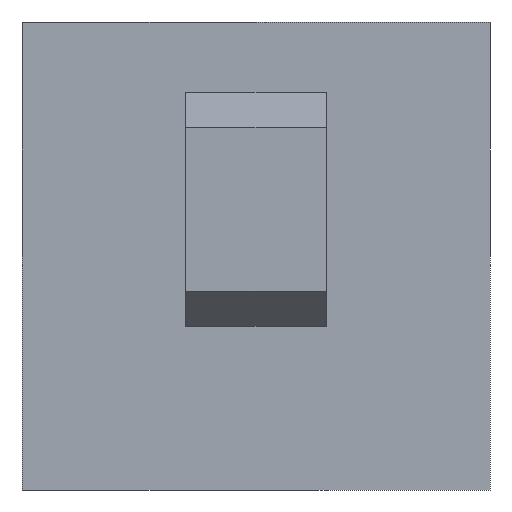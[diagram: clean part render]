
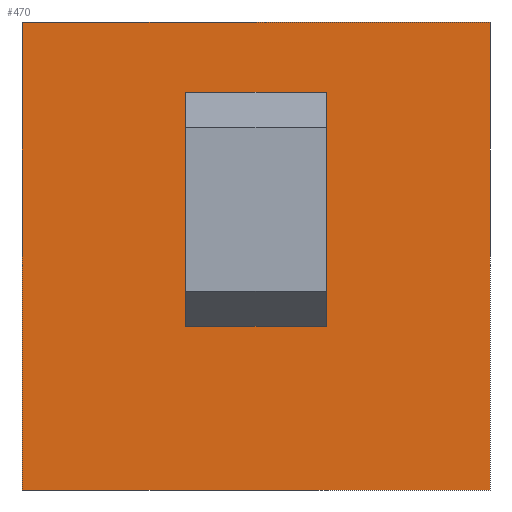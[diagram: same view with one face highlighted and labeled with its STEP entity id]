
A CAD part, front view. The second image highlights one B-rep face of the part: STEP entity #470.
In plain terms, the highlighted planar face has unit normal (0, -1, 0).
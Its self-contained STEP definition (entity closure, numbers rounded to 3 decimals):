
#3 = ORIENTED_EDGE ( 'NONE', *, *, #50, .T. ) ;
#32 = DIRECTION ( 'NONE',  ( 1., 0., 0. ) ) ;
#50 = EDGE_CURVE ( 'NONE', #166, #1022, #87, .T. ) ;
#52 = CARTESIAN_POINT ( 'NONE',  ( -10., -10., 0. ) ) ;
#86 = ORIENTED_EDGE ( 'NONE', *, *, #813, .T. ) ;
#87 = LINE ( 'NONE', #565, #1264 ) ;
#89 = CARTESIAN_POINT ( 'NONE',  ( 3., -10., 6. ) ) ;
#97 = EDGE_LOOP ( 'NONE', ( #679, #481, #1228, #496 ) ) ;
#103 = DIRECTION ( 'NONE',  ( 0., 0., 1. ) ) ;
#128 = VERTEX_POINT ( 'NONE', #939 ) ;
#134 = DIRECTION ( 'NONE',  ( -1., 0., 0. ) ) ;
#137 = VECTOR ( 'NONE', #1367, 1000. ) ;
#166 = VERTEX_POINT ( 'NONE', #1308 ) ;
#170 = EDGE_CURVE ( 'NONE', #1022, #1125, #1445, .T. ) ;
#180 = CARTESIAN_POINT ( 'NONE',  ( 10., -10., 0. ) ) ;
#197 = CARTESIAN_POINT ( 'NONE',  ( 10., -10., 0. ) ) ;
#202 = PLANE ( 'NONE',  #806 ) ;
#246 = ORIENTED_EDGE ( 'NONE', *, *, #170, .T. ) ;
#284 = LINE ( 'NONE', #502, #412 ) ;
#395 = EDGE_CURVE ( 'NONE', #128, #1388, #997, .T. ) ;
#412 = VECTOR ( 'NONE', #134, 1000. ) ;
#415 = VERTEX_POINT ( 'NONE', #545 ) ;
#450 = DIRECTION ( 'NONE',  ( 0., 0., -1. ) ) ;
#455 = VERTEX_POINT ( 'NONE', #1254 ) ;
#470 = ADVANCED_FACE ( 'NONE', ( #1269, #1021 ), #202, .T. ) ;
#481 = ORIENTED_EDGE ( 'NONE', *, *, #395, .T. ) ;
#490 = EDGE_CURVE ( 'NONE', #1388, #455, #1379, .T. ) ;
#496 = ORIENTED_EDGE ( 'NONE', *, *, #828, .T. ) ;
#502 = CARTESIAN_POINT ( 'NONE',  ( 5., -10., -2. ) ) ;
#545 = CARTESIAN_POINT ( 'NONE',  ( 3., -10., -2. ) ) ;
#565 = CARTESIAN_POINT ( 'NONE',  ( -3., -10., 1. ) ) ;
#615 = VECTOR ( 'NONE', #450, 1000. ) ;
#638 = VECTOR ( 'NONE', #1366, 1000. ) ;
#664 = CARTESIAN_POINT ( 'NONE',  ( 10., -10., 10. ) ) ;
#674 = CARTESIAN_POINT ( 'NONE',  ( -10., -10., -10. ) ) ;
#678 = EDGE_CURVE ( 'NONE', #919, #128, #714, .T. ) ;
#679 = ORIENTED_EDGE ( 'NONE', *, *, #678, .T. ) ;
#689 = CARTESIAN_POINT ( 'NONE',  ( -3., -10., 6. ) ) ;
#714 = LINE ( 'NONE', #1124, #1185 ) ;
#806 = AXIS2_PLACEMENT_3D ( 'NONE', #197, #1127, #1150 ) ;
#813 = EDGE_CURVE ( 'NONE', #415, #166, #284, .T. ) ;
#817 = CARTESIAN_POINT ( 'NONE',  ( 3., -10., 1. ) ) ;
#828 = EDGE_CURVE ( 'NONE', #455, #919, #1251, .T. ) ;
#919 = VERTEX_POINT ( 'NONE', #664 ) ;
#924 = LINE ( 'NONE', #817, #615 ) ;
#939 = CARTESIAN_POINT ( 'NONE',  ( -10., -10., 10. ) ) ;
#976 = EDGE_CURVE ( 'NONE', #1125, #415, #924, .T. ) ;
#997 = LINE ( 'NONE', #52, #638 ) ;
#1010 = VECTOR ( 'NONE', #32, 1000. ) ;
#1021 = FACE_BOUND ( 'NONE', #1203, .T. ) ;
#1022 = VERTEX_POINT ( 'NONE', #689 ) ;
#1124 = CARTESIAN_POINT ( 'NONE',  ( -10., -10., 10. ) ) ;
#1125 = VERTEX_POINT ( 'NONE', #89 ) ;
#1127 = DIRECTION ( 'NONE',  ( 0., -1., 0. ) ) ;
#1131 = DIRECTION ( 'NONE',  ( 0., 0., 1. ) ) ;
#1150 = DIRECTION ( 'NONE',  ( 0., 0., -1. ) ) ;
#1185 = VECTOR ( 'NONE', #1354, 1000. ) ;
#1203 = EDGE_LOOP ( 'NONE', ( #3, #246, #1255, #86 ) ) ;
#1210 = CARTESIAN_POINT ( 'NONE',  ( 5., -10., 6. ) ) ;
#1228 = ORIENTED_EDGE ( 'NONE', *, *, #490, .T. ) ;
#1251 = LINE ( 'NONE', #180, #1282 ) ;
#1254 = CARTESIAN_POINT ( 'NONE',  ( 10., -10., -10. ) ) ;
#1255 = ORIENTED_EDGE ( 'NONE', *, *, #976, .T. ) ;
#1264 = VECTOR ( 'NONE', #103, 1000. ) ;
#1269 = FACE_OUTER_BOUND ( 'NONE', #97, .T. ) ;
#1282 = VECTOR ( 'NONE', #1131, 1000. ) ;
#1308 = CARTESIAN_POINT ( 'NONE',  ( -3., -10., -2. ) ) ;
#1354 = DIRECTION ( 'NONE',  ( -1., 0., 0. ) ) ;
#1366 = DIRECTION ( 'NONE',  ( 0., 0., -1. ) ) ;
#1367 = DIRECTION ( 'NONE',  ( 1., 0., 0. ) ) ;
#1379 = LINE ( 'NONE', #674, #137 ) ;
#1388 = VERTEX_POINT ( 'NONE', #1469 ) ;
#1445 = LINE ( 'NONE', #1210, #1010 ) ;
#1469 = CARTESIAN_POINT ( 'NONE',  ( -10., -10., -10. ) ) ;
